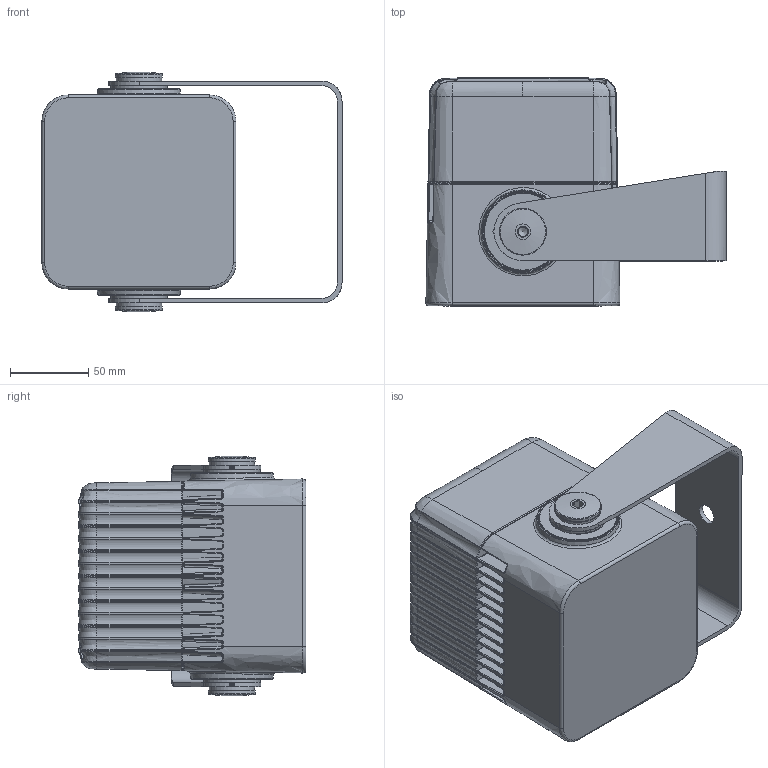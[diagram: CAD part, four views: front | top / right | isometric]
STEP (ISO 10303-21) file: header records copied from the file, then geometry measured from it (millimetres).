
FILE_DESCRIPTION(/* description */ ('Unknown'),/* implementation_level */ '2;1');
FILE_NAME(/* name */ 'Appoli S - Multi',/* time_stamp */ '2026-03-20T13:37:10+01:00',/* author */ ('Unknown'),/* organization */ ('Unknown'),/* preprocessor_version */ 'ST-DEVELOPER v20',/* originating_system */ 'Solid Edge',/* authorisation */ 'Unknown');
FILE_SCHEMA (('AUTOMOTIVE_DESIGN {1 0 10303 214 3 1 1}'));
Products named in the file (10): Appoli S - Multi; 19040204-01 Tøecí kroužek ramene; 11X40268 Rameno Appoli S; 11018311  犈lom鬳 Calumma; 11040400  犈lom鬳 Appoli; Housing Appoli S; 11018348 podložka D=30mm; 12051722 Šroub ramene Calumma; 19040332-01 Tøecí kroužek Calumma; Zdrojová èást Appoli S Anolis
Assembly tree (13 placements, depth 2):
  Appoli S - Multi
    19040204-01 Tøecí kroužek ramene  x2
    11X40268 Rameno Appoli S
    11018311  犈lom鬳 Calumma
    11040400  犈lom鬳 Appoli
    Housing Appoli S
    11018348 podložka D=30mm  x2
    12051722 Šroub ramene Calumma  x2
    19040332-01 Tøecí kroužek Calumma  x2
    Zdrojová èást Appoli S Anolis
Bounding box: 192.08 x 145.7 x 153.4 mm (x, y, z)
Volume: 1874368.7 mm3; surface area: 261963.2 mm2
Topology: 13 solids, 13 shells, 1472 faces, 3373 edges, 1764 vertices
Faces by surface type: bspline 558, cylinder 345, plane 246, sphere 196, torus 75, cone 52
Full cylindrical faces by diameter (mm): 1.426 x1, 1.85 x1, 4.002 x1, 4.134 x1, 6.1 x2, 6.647 x2, 8 x2, 13 x3, 13.2 x6, 13.6 x2, 13.8 x2, 29 x2, 30 x4, 36 x2, 49.2 x2
Entity records: 50630 total; most frequent: CARTESIAN_POINT 23375, ORIENTED_EDGE 5958, DIRECTION 5048, EDGE_CURVE 2979, AXIS2_PLACEMENT_3D 2166, VERTEX_POINT 1681, FACE_BOUND 1546, EDGE_LOOP 1545
